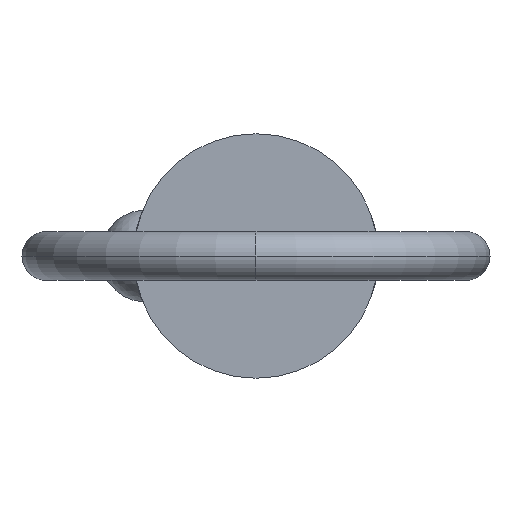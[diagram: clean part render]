
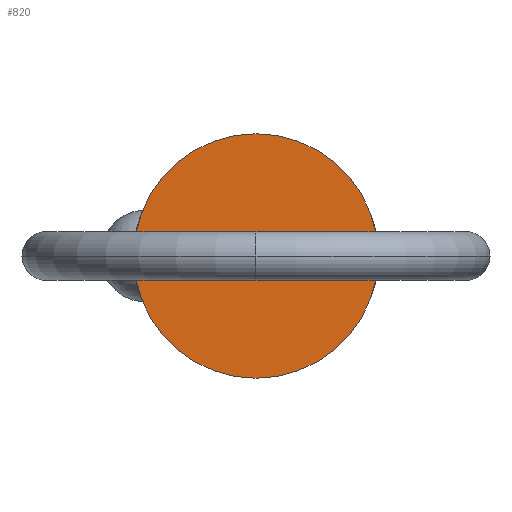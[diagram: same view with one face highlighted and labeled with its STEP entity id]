
A CAD part, left-side view. The second image highlights one B-rep face of the part: STEP entity #820.
In plain terms, the highlighted planar face has unit normal (-1, 0, 0).
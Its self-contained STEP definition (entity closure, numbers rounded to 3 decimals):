
#20 = VERTEX_POINT ( 'NONE', #466 ) ;
#23 = AXIS2_PLACEMENT_3D ( 'NONE', #415, #729, #154 ) ;
#32 = DIRECTION ( 'NONE',  ( 1., 0., 0. ) ) ;
#154 = DIRECTION ( 'NONE',  ( 0., 0., -1. ) ) ;
#344 = CARTESIAN_POINT ( 'NONE',  ( 0., 0., 11.115 ) ) ;
#372 = DIRECTION ( 'NONE',  ( -1., 0., 0. ) ) ;
#379 = EDGE_LOOP ( 'NONE', ( #757, #754 ) ) ;
#384 = CARTESIAN_POINT ( 'NONE',  ( 0., 0., 0. ) ) ;
#415 = CARTESIAN_POINT ( 'NONE',  ( 0., 0., 0. ) ) ;
#424 = EDGE_CURVE ( 'NONE', #20, #449, #863, .T. ) ;
#447 = CARTESIAN_POINT ( 'NONE',  ( 0., 0., 0. ) ) ;
#449 = VERTEX_POINT ( 'NONE', #344 ) ;
#465 = DIRECTION ( 'NONE',  ( 0., 0., -1. ) ) ;
#466 = CARTESIAN_POINT ( 'NONE',  ( 0., 0., -11.115 ) ) ;
#515 = AXIS2_PLACEMENT_3D ( 'NONE', #384, #32, #465 ) ;
#596 = PLANE ( 'NONE',  #775 ) ;
#695 = EDGE_CURVE ( 'NONE', #449, #20, #730, .T. ) ;
#729 = DIRECTION ( 'NONE',  ( 1., 0., 0. ) ) ;
#730 = CIRCLE ( 'NONE', #515, 11.115 ) ;
#754 = ORIENTED_EDGE ( 'NONE', *, *, #695, .F. ) ;
#757 = ORIENTED_EDGE ( 'NONE', *, *, #424, .F. ) ;
#775 = AXIS2_PLACEMENT_3D ( 'NONE', #447, #372, #817 ) ;
#807 = FACE_OUTER_BOUND ( 'NONE', #379, .T. ) ;
#817 = DIRECTION ( 'NONE',  ( 0., 0., 1. ) ) ;
#820 = ADVANCED_FACE ( 'NONE', ( #807 ), #596, .T. ) ;
#863 = CIRCLE ( 'NONE', #23, 11.115 ) ;
